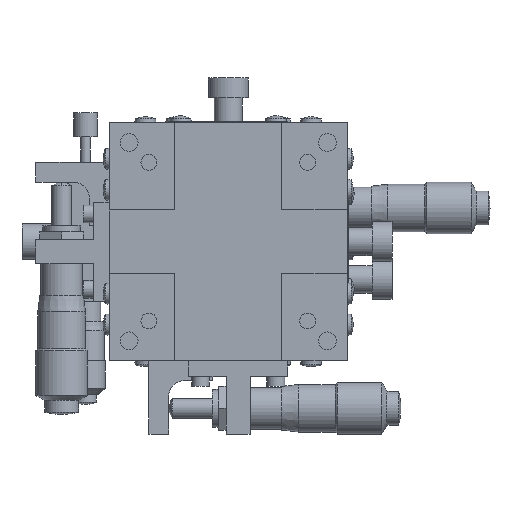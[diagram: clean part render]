
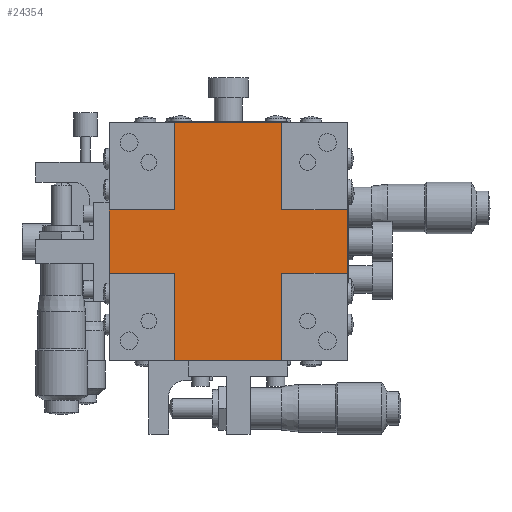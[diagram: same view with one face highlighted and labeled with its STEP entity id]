
A CAD part, front view. The second image highlights one B-rep face of the part: STEP entity #24354.
In plain terms, the highlighted planar face has unit normal (0, -1, 0).
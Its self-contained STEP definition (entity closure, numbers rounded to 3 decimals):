
#3973 = CARTESIAN_POINT ( 'NONE',  ( -13.5, -6.5, -60. ) ) ;
#3978 = CARTESIAN_POINT ( 'NONE',  ( 13.5, -6.5, 0. ) ) ;
#3980 = CARTESIAN_POINT ( 'NONE',  ( -13.5, -6.5, -22. ) ) ;
#3983 = CARTESIAN_POINT ( 'NONE',  ( -13.5, -6.5, 0. ) ) ;
#3989 = CARTESIAN_POINT ( 'NONE',  ( -13.5, -6.5, -38. ) ) ;
#3991 = CARTESIAN_POINT ( 'NONE',  ( 13.5, -6.5, -22. ) ) ;
#3993 = CARTESIAN_POINT ( 'NONE',  ( 30., -6.5, -38. ) ) ;
#3994 = CARTESIAN_POINT ( 'NONE',  ( -30., -6.5, -22. ) ) ;
#3996 = CARTESIAN_POINT ( 'NONE',  ( -30., -6.5, -38. ) ) ;
#3999 = CARTESIAN_POINT ( 'NONE',  ( 13.5, -6.5, -60. ) ) ;
#4000 = CARTESIAN_POINT ( 'NONE',  ( 13.5, -6.5, -38. ) ) ;
#4002 = CARTESIAN_POINT ( 'NONE',  ( 30., -6.5, -22. ) ) ;
#4967 = CARTESIAN_POINT ( 'NONE',  ( 0., -6.5, 36.141 ) ) ;
#4970 = FACE_OUTER_BOUND ( 'NONE', #17507, .T. ) ;
#4971 = PLANE ( 'NONE',  #27462 ) ;
#4974 = DIRECTION ( 'NONE',  ( 0., -1., 0. ) ) ;
#4975 = DIRECTION ( 'NONE',  ( 0., 0., 1. ) ) ;
#8005 = VECTOR ( 'NONE', #11686, 1000. ) ;
#8008 = VECTOR ( 'NONE', #11719, 1000. ) ;
#8017 = VECTOR ( 'NONE', #11717, 1000. ) ;
#8019 = VECTOR ( 'NONE', #11722, 1000. ) ;
#8020 = VECTOR ( 'NONE', #11725, 1000. ) ;
#8021 = VECTOR ( 'NONE', #11728, 1000. ) ;
#8022 = VECTOR ( 'NONE', #11731, 1000. ) ;
#8023 = VECTOR ( 'NONE', #11734, 1000. ) ;
#8024 = VECTOR ( 'NONE', #11737, 1000. ) ;
#8025 = VECTOR ( 'NONE', #11740, 1000. ) ;
#8026 = VECTOR ( 'NONE', #11743, 1000. ) ;
#8027 = VECTOR ( 'NONE', #11746, 1000. ) ;
#11683 = LINE ( 'NONE', #11685, #8005 ) ;
#11685 = CARTESIAN_POINT ( 'NONE',  ( 0., -6.5, 0. ) ) ;
#11686 = DIRECTION ( 'NONE',  ( -1., 0., 0. ) ) ;
#11708 = LINE ( 'NONE', #11709, #8017 ) ;
#11709 = CARTESIAN_POINT ( 'NONE',  ( 13.5, -6.5, 36.141 ) ) ;
#11713 = LINE ( 'NONE', #11718, #8008 ) ;
#11717 = DIRECTION ( 'NONE',  ( 0., 0., -1. ) ) ;
#11718 = CARTESIAN_POINT ( 'NONE',  ( -13.5, -6.5, 36.141 ) ) ;
#11719 = DIRECTION ( 'NONE',  ( 0., 0., -1. ) ) ;
#11720 = LINE ( 'NONE', #11721, #8019 ) ;
#11721 = CARTESIAN_POINT ( 'NONE',  ( 0., -6.5, -22. ) ) ;
#11722 = DIRECTION ( 'NONE',  ( 1., 0., 0. ) ) ;
#11723 = LINE ( 'NONE', #11724, #8020 ) ;
#11724 = CARTESIAN_POINT ( 'NONE',  ( -30., -6.5, 36.141 ) ) ;
#11725 = DIRECTION ( 'NONE',  ( 0., 0., -1. ) ) ;
#11726 = LINE ( 'NONE', #11727, #8021 ) ;
#11727 = CARTESIAN_POINT ( 'NONE',  ( 0., -6.5, -38. ) ) ;
#11728 = DIRECTION ( 'NONE',  ( 1., 0., 0. ) ) ;
#11729 = LINE ( 'NONE', #11730, #8022 ) ;
#11730 = CARTESIAN_POINT ( 'NONE',  ( -13.5, -6.5, 36.141 ) ) ;
#11731 = DIRECTION ( 'NONE',  ( 0., 0., 1. ) ) ;
#11732 = LINE ( 'NONE', #11733, #8023 ) ;
#11733 = CARTESIAN_POINT ( 'NONE',  ( 0., -6.5, -60. ) ) ;
#11734 = DIRECTION ( 'NONE',  ( 1., 0., 0. ) ) ;
#11735 = LINE ( 'NONE', #11736, #8024 ) ;
#11736 = CARTESIAN_POINT ( 'NONE',  ( 13.5, -6.5, 36.141 ) ) ;
#11737 = DIRECTION ( 'NONE',  ( 0., 0., 1. ) ) ;
#11738 = LINE ( 'NONE', #11739, #8025 ) ;
#11739 = CARTESIAN_POINT ( 'NONE',  ( 0., -6.5, -38. ) ) ;
#11740 = DIRECTION ( 'NONE',  ( -1., 0., 0. ) ) ;
#11741 = LINE ( 'NONE', #11742, #8026 ) ;
#11742 = CARTESIAN_POINT ( 'NONE',  ( 30., -6.5, 36.141 ) ) ;
#11743 = DIRECTION ( 'NONE',  ( 0., 0., 1. ) ) ;
#11744 = LINE ( 'NONE', #11745, #8027 ) ;
#11745 = CARTESIAN_POINT ( 'NONE',  ( 0., -6.5, -22. ) ) ;
#11746 = DIRECTION ( 'NONE',  ( -1., 0., 0. ) ) ;
#17507 = EDGE_LOOP ( 'NONE', ( #18567, #18568, #18569, #18570, #18571, #18572, #18573, #18574, #18575, #18576, #18577, #18578 ) ) ;
#18567 = ORIENTED_EDGE ( 'NONE', *, *, #25645, .F. ) ;
#18568 = ORIENTED_EDGE ( 'NONE', *, *, #25634, .T. ) ;
#18569 = ORIENTED_EDGE ( 'NONE', *, *, #25646, .T. ) ;
#18570 = ORIENTED_EDGE ( 'NONE', *, *, #25647, .F. ) ;
#18571 = ORIENTED_EDGE ( 'NONE', *, *, #25648, .T. ) ;
#18572 = ORIENTED_EDGE ( 'NONE', *, *, #25649, .T. ) ;
#18573 = ORIENTED_EDGE ( 'NONE', *, *, #25650, .F. ) ;
#18574 = ORIENTED_EDGE ( 'NONE', *, *, #25651, .T. ) ;
#18575 = ORIENTED_EDGE ( 'NONE', *, *, #25652, .T. ) ;
#18576 = ORIENTED_EDGE ( 'NONE', *, *, #25653, .F. ) ;
#18577 = ORIENTED_EDGE ( 'NONE', *, *, #25654, .T. ) ;
#18578 = ORIENTED_EDGE ( 'NONE', *, *, #25655, .T. ) ;
#22265 = VERTEX_POINT ( 'NONE', #3973 ) ;
#22270 = VERTEX_POINT ( 'NONE', #3978 ) ;
#22272 = VERTEX_POINT ( 'NONE', #3980 ) ;
#22275 = VERTEX_POINT ( 'NONE', #3983 ) ;
#22283 = VERTEX_POINT ( 'NONE', #3991 ) ;
#22285 = VERTEX_POINT ( 'NONE', #3993 ) ;
#22286 = VERTEX_POINT ( 'NONE', #3994 ) ;
#22288 = VERTEX_POINT ( 'NONE', #3996 ) ;
#22290 = VERTEX_POINT ( 'NONE', #3989 ) ;
#22292 = VERTEX_POINT ( 'NONE', #3999 ) ;
#22293 = VERTEX_POINT ( 'NONE', #4000 ) ;
#22295 = VERTEX_POINT ( 'NONE', #4002 ) ;
#24354 = ADVANCED_FACE ( 'NONE', ( #4970 ), #4971, .T. ) ;
#25634 = EDGE_CURVE ( 'NONE', #22270, #22275, #11683, .T. ) ;
#25645 = EDGE_CURVE ( 'NONE', #22270, #22283, #11708, .T. ) ;
#25646 = EDGE_CURVE ( 'NONE', #22275, #22272, #11713, .T. ) ;
#25647 = EDGE_CURVE ( 'NONE', #22286, #22272, #11720, .T. ) ;
#25648 = EDGE_CURVE ( 'NONE', #22286, #22288, #11723, .T. ) ;
#25649 = EDGE_CURVE ( 'NONE', #22288, #22290, #11726, .T. ) ;
#25650 = EDGE_CURVE ( 'NONE', #22265, #22290, #11729, .T. ) ;
#25651 = EDGE_CURVE ( 'NONE', #22265, #22292, #11732, .T. ) ;
#25652 = EDGE_CURVE ( 'NONE', #22292, #22293, #11735, .T. ) ;
#25653 = EDGE_CURVE ( 'NONE', #22285, #22293, #11738, .T. ) ;
#25654 = EDGE_CURVE ( 'NONE', #22285, #22295, #11741, .T. ) ;
#25655 = EDGE_CURVE ( 'NONE', #22295, #22283, #11744, .T. ) ;
#27462 = AXIS2_PLACEMENT_3D ( 'NONE', #4967, #4974, #4975 ) ;
